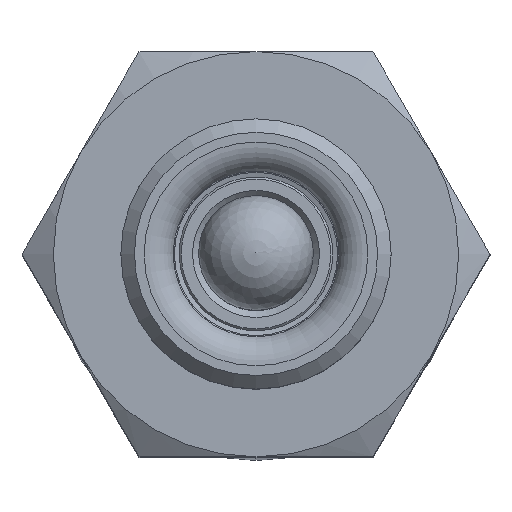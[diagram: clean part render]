
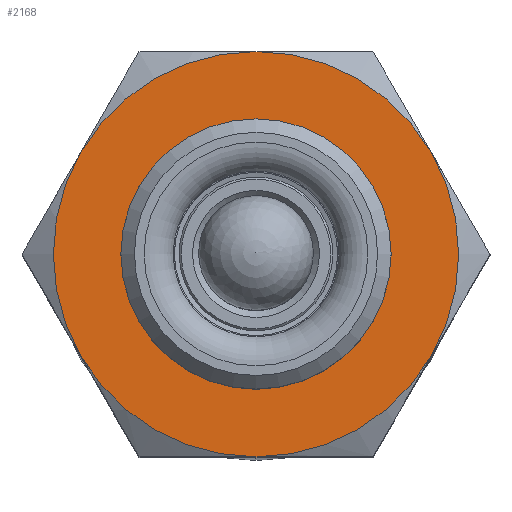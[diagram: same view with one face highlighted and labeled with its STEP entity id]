
A CAD part, top view. The second image highlights one B-rep face of the part: STEP entity #2168.
In plain terms, the highlighted planar face has unit normal (0, 0, 1) as drawn and (1, 0, 0) by its records, which use the part's own axes.
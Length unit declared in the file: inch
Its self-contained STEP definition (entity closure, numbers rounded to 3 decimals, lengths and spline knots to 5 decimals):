
#213=FACE_BOUND('',#517,.T.);
#250=PLANE('',#2401);
#366=FACE_OUTER_BOUND('',#516,.T.);
#516=EDGE_LOOP('',(#1574,#1575,#1576,#1577,#1578,#1579));
#517=EDGE_LOOP('',(#1580));
#929=CIRCLE('',#2400,0.25006);
#930=CIRCLE('',#2402,0.375);
#931=CIRCLE('',#2403,0.375);
#932=CIRCLE('',#2404,0.375);
#933=CIRCLE('',#2405,0.375);
#934=CIRCLE('',#2406,0.375);
#935=CIRCLE('',#2407,0.375);
#1085=VERTEX_POINT('',#3456);
#1086=VERTEX_POINT('',#3460);
#1087=VERTEX_POINT('',#3461);
#1088=VERTEX_POINT('',#3463);
#1089=VERTEX_POINT('',#3465);
#1090=VERTEX_POINT('',#3467);
#1091=VERTEX_POINT('',#3469);
#1274=EDGE_CURVE('',#1085,#1085,#929,.T.);
#1276=EDGE_CURVE('',#1086,#1087,#930,.T.);
#1277=EDGE_CURVE('',#1087,#1088,#931,.T.);
#1278=EDGE_CURVE('',#1088,#1089,#932,.T.);
#1279=EDGE_CURVE('',#1089,#1090,#933,.T.);
#1280=EDGE_CURVE('',#1090,#1091,#934,.T.);
#1281=EDGE_CURVE('',#1091,#1086,#935,.T.);
#1574=ORIENTED_EDGE('',*,*,#1276,.T.);
#1575=ORIENTED_EDGE('',*,*,#1277,.T.);
#1576=ORIENTED_EDGE('',*,*,#1278,.T.);
#1577=ORIENTED_EDGE('',*,*,#1279,.T.);
#1578=ORIENTED_EDGE('',*,*,#1280,.T.);
#1579=ORIENTED_EDGE('',*,*,#1281,.T.);
#1580=ORIENTED_EDGE('',*,*,#1274,.F.);
#2168=ADVANCED_FACE('',(#366,#213),#250,.T.);
#2400=AXIS2_PLACEMENT_3D('',#3457,#2729,#2730);
#2401=AXIS2_PLACEMENT_3D('',#3459,#2732,#2733);
#2402=AXIS2_PLACEMENT_3D('',#3462,#2734,#2735);
#2403=AXIS2_PLACEMENT_3D('',#3464,#2736,#2737);
#2404=AXIS2_PLACEMENT_3D('',#3466,#2738,#2739);
#2405=AXIS2_PLACEMENT_3D('',#3468,#2740,#2741);
#2406=AXIS2_PLACEMENT_3D('',#3470,#2742,#2743);
#2407=AXIS2_PLACEMENT_3D('',#3471,#2744,#2745);
#2729=DIRECTION('center_axis',(1.,0.,0.));
#2730=DIRECTION('ref_axis',(0.,0.,1.));
#2732=DIRECTION('center_axis',(1.,0.,0.));
#2733=DIRECTION('ref_axis',(0.,0.,-1.));
#2734=DIRECTION('center_axis',(1.,0.,0.));
#2735=DIRECTION('ref_axis',(0.,1.,0.));
#2736=DIRECTION('center_axis',(1.,0.,0.));
#2737=DIRECTION('ref_axis',(0.,1.,0.));
#2738=DIRECTION('center_axis',(1.,0.,0.));
#2739=DIRECTION('ref_axis',(0.,1.,0.));
#2740=DIRECTION('center_axis',(1.,0.,0.));
#2741=DIRECTION('ref_axis',(0.,1.,0.));
#2742=DIRECTION('center_axis',(1.,0.,0.));
#2743=DIRECTION('ref_axis',(0.,1.,0.));
#2744=DIRECTION('center_axis',(1.,0.,0.));
#2745=DIRECTION('ref_axis',(0.,1.,0.));
#3456=CARTESIAN_POINT('',(0.448,0.,-0.25006));
#3457=CARTESIAN_POINT('Origin',(0.448,0.,0.));
#3459=CARTESIAN_POINT('Origin',(0.448,0.,0.));
#3460=CARTESIAN_POINT('',(0.448,-0.32476,-0.1875));
#3461=CARTESIAN_POINT('',(0.448,0.,-0.375));
#3462=CARTESIAN_POINT('Origin',(0.448,0.,0.));
#3463=CARTESIAN_POINT('',(0.448,0.32476,-0.1875));
#3464=CARTESIAN_POINT('Origin',(0.448,0.,0.));
#3465=CARTESIAN_POINT('',(0.448,0.32476,0.1875));
#3466=CARTESIAN_POINT('Origin',(0.448,0.,0.));
#3467=CARTESIAN_POINT('',(0.448,0.,0.375));
#3468=CARTESIAN_POINT('Origin',(0.448,0.,0.));
#3469=CARTESIAN_POINT('',(0.448,-0.32476,0.1875));
#3470=CARTESIAN_POINT('Origin',(0.448,0.,0.));
#3471=CARTESIAN_POINT('Origin',(0.448,0.,0.));
